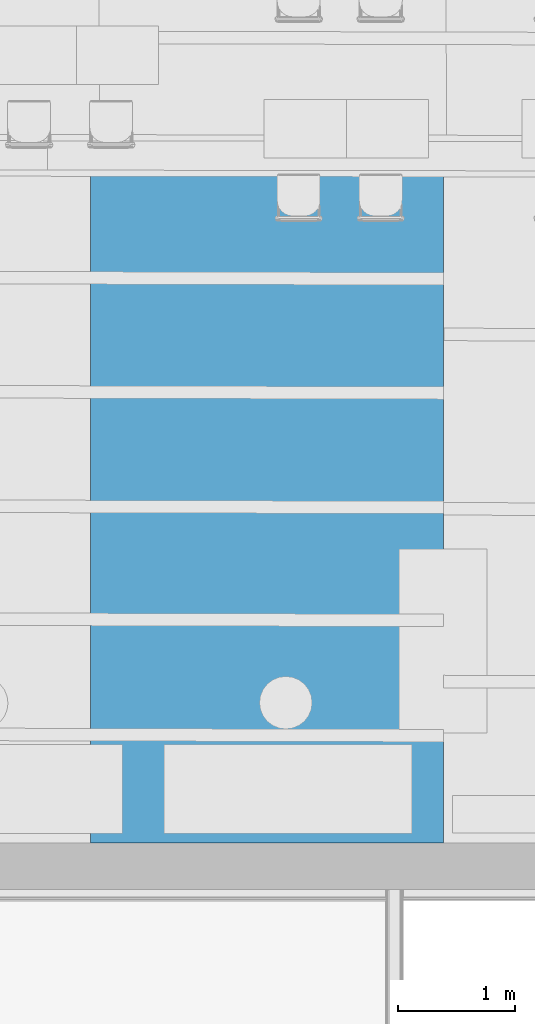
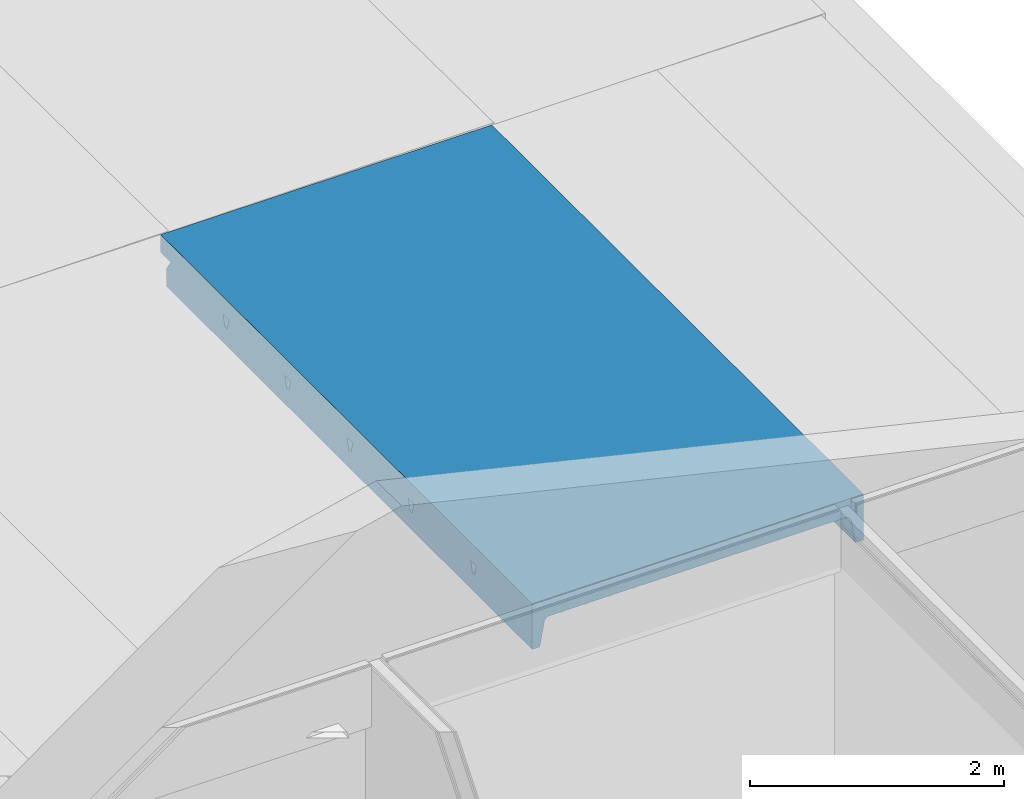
# One storey, part 20 of 153: 1 beam.
"""IFC2X3 building model written with IfcOpenShell, lengths in millimetres."""

from ifc_helpers import new_model, entity, si_unit, converted_unit, derived_unit, money_unit, direction, frame, origin_with_axes, place, context, subcontext, project, spatial, faceted_brep, material, type_object, element, save


model = new_model("IFC2X3")

# Units and contexts
model_context = context("Model", 3, precision=0.01, world=origin_with_axes(), true_north=direction((0.0, 1.0)))
body_context = subcontext(model_context, "Body", "Model", "MODEL_VIEW")
ifc_project = project(units=[si_unit("LENGTHUNIT", "METRE", prefix="MILLI"), si_unit("AREAUNIT", "SQUARE_METRE"), si_unit("VOLUMEUNIT", "CUBIC_METRE"), converted_unit("PLANEANGLEUNIT", "DEGREE", entity("IfcPlaneAngleMeasure", 0.0174532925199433), si_unit("PLANEANGLEUNIT", "RADIAN"), dimensions=[0, 0, 0, 0, 0, 0, 0]), money_unit("EUR"), converted_unit("TIMEUNIT", "Year", entity("IfcTimeMeasure", 31557600.0), si_unit("TIMEUNIT", "SECOND"), dimensions=[0, 0, 1, 0, 0, 0, 0]), si_unit("MASSUNIT", "GRAM", prefix="KILO"), si_unit("THERMODYNAMICTEMPERATUREUNIT", "DEGREE_CELSIUS"), si_unit("LUMINOUSINTENSITYUNIT", "LUMEN"), si_unit("ENERGYUNIT", "JOULE", prefix="MEGA"), derived_unit("THERMALCONDUCTANCEUNIT", [(si_unit("POWERUNIT", "WATT"), 1), (si_unit("LENGTHUNIT", "METRE"), -1), (si_unit("THERMODYNAMICTEMPERATUREUNIT", "KELVIN"), -1)]), derived_unit("SPECIFICHEATCAPACITYUNIT", [(si_unit("ENERGYUNIT", "JOULE"), 1), (si_unit("MASSUNIT", "GRAM", prefix="KILO"), -1), (si_unit("THERMODYNAMICTEMPERATUREUNIT", "KELVIN"), -1)]), derived_unit("MASSDENSITYUNIT", [(si_unit("MASSUNIT", "GRAM", prefix="KILO"), 1), (si_unit("VOLUMEUNIT", "CUBIC_METRE"), -1)])], contexts=[model_context])

# Site, building, storey
site_placement = place(None, frame((0.0, 0.0, 8650.0), z_axis=(0.0, 0.0, 1.0), x_axis=(1.0, 0.0, 0.0)))
site = spatial("IfcSite", under=ifc_project, at=site_placement, Name="43301:001:0844", CompositionType="ELEMENT")
building_placement = place(site_placement, origin_with_axes())
building = spatial("IfcBuilding", under=site, at=building_placement, Name="Kuressaare Ametikooli tuulikute mehaanikute õppekorpus", CompositionType="ELEMENT")
storey_placement = place(building_placement, frame((0.0, 0.0, 4100.0), z_axis=(0.0, 0.0, 1.0), x_axis=(1.0, 0.0, 0.0)))
storey = spatial("IfcBuildingStorey", under=building, at=storey_placement, Name="2.korrus", CompositionType="ELEMENT", Elevation=4100.0)

# Beam
ifc_material = material(Name="GENEERILINE - KONSTRUKTRIOON")
beam_type = type_object("IfcBeamType", Name="Precast Double Tee 4 3012 x 440", PredefinedType="NOTDEFINED")
beam_placement = place(storey_placement, frame((98771.69498040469, 32034.33665916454, 2975.0), z_axis=(0.0, 0.0, 1.0), x_axis=(-1.0, 0.0, 0.0)))
element("IfcBeam", 1, at=beam_placement, inside=storey, type_object=beam_type, material=ifc_material, context=body_context, shape_type="Brep", body=[
    faceted_brep([(1505.817226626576, 95.37550191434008, -440.0001340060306), (1505.817226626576, 5851.267735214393, -440.0001340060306), (1505.817226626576, 5851.267735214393, 0.0), (1505.817226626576, 0.0, 0.0), (1505.817226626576, 0.0, -169.8235593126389), (1505.817226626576, 163.6031326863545, -169.8235593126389), (1505.817226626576, 152.6405697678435, -181.3564172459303), (1505.817226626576, 120.9680493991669, -222.371868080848), (1505.817226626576, 95.37602450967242, -267.4325278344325), (1505.817226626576, 4981.841218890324, -169.8663369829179), (1505.817226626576, 4973.642342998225, -175.4406717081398), (1505.817226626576, 4969.067713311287, -184.2365347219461), (1505.817226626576, 4948.327681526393, -271.8138152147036), (1505.817226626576, 4908.327538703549, -271.8138152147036), (1505.817226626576, 4887.586545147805, -184.2363394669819), (1505.817226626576, 4883.011895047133, -175.4405967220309), (1505.817226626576, 4874.813085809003, -169.8663369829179), (1505.817226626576, 3990.444499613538, -175.4406717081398), (1505.817226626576, 3985.869869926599, -184.2365347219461), (1505.817226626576, 3965.129838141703, -271.8138152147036), (1505.817226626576, 3925.129695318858, -271.8138152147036), (1505.817226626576, 3904.388701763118, -184.2363394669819), (1505.817226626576, 3899.814051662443, -175.4405967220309), (1505.817226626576, 3891.615242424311, -169.8663369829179), (1505.817226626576, 3998.643375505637, -169.8663369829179), (1505.817226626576, 3022.135664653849, -184.2365347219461), (1505.817226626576, 3001.395632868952, -271.8138152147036), (1505.817226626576, 2961.395490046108, -271.8138152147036), (1505.817226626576, 2940.654496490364, -184.2363394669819), (1505.817226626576, 2936.079846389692, -175.4405967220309), (1505.817226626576, 2927.881037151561, -169.8663369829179), (1505.817226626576, 3034.909170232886, -169.8663369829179), (1505.817226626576, 3026.710294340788, -175.4406717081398), (1505.817226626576, 2024.495886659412, -271.8138152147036), (1505.817226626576, 1984.495743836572, -271.8138152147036), (1505.817226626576, 1963.754750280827, -184.2363394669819), (1505.817226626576, 1959.180100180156, -175.4405967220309), (1505.817226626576, 1950.981290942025, -169.8663369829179), (1505.817226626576, 2058.009424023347, -169.8663369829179), (1505.817226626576, 2049.810548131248, -175.4406717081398), (1505.817226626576, 2045.235918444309, -184.2365347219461), (1505.817226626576, 1010.734254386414, -271.8138152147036), (1505.817226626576, 989.9932608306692, -184.2363394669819), (1505.817226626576, 985.4186107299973, -175.4405967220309), (1505.817226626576, 977.2198014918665, -169.8663369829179), (1505.817226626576, 1084.247934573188, -169.8663369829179), (1505.817226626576, 1076.049058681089, -175.4406717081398), (1505.817226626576, 1071.474428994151, -184.2365347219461), (1505.817226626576, 1050.734397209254, -271.8138152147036), (1435.817226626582, 95.49163130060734, -440.0001340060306), (1435.817226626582, 5851.267735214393, -440.0001340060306), (1376.104194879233, 5851.267735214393, -180.3380699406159), (1360.269640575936, 5851.267735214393, -172.4372542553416), (1342.636896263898, 5851.267735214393, -170.9398142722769), (-1340.070370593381, 5851.267735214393, -169.8234995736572), (-1360.128065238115, 5851.267735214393, -173.505793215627), (-1377.569867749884, 5851.267735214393, -184.0724353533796), (-1390.121046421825, 5851.267735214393, -200.145341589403), (-1396.144696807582, 5851.267735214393, -219.628309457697), (-1430.817223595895, 5851.267735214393, -440.0001340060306), (-1505.817226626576, 5851.267735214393, -440.0001340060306), (-1505.817226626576, 5851.267735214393, 0.0), (1394.00150495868, 5851.267735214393, -210.1386333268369), (1387.903755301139, 5851.267735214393, -193.5261847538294), (-1505.817226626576, 0.0, 0.0), (-1505.817226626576, 0.0, -169.8235593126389), (-1340.070370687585, 168.3244352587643, -169.8235593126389), (-1505.817226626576, 168.5994078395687, -169.8235593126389), (1342.636896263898, 162.8127908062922, -170.9398142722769), (1360.269640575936, 161.3601460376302, -172.4372542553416), (1376.104194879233, 153.8237530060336, -180.3380699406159), (1377.015322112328, 152.8542509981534, -181.3564172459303), (1387.903755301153, 143.4385772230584, -193.5261847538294), (1394.00150495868, 130.6001706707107, -210.1386333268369), (1396.226938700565, 121.149858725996, -222.371868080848), (1404.424240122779, 95.54423458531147, -267.4325278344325), (1342.636896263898, 4980.698386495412, -170.9398142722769), (1360.269640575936, 4978.448793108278, -172.4372542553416), (1366.288990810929, 4974.015203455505, -175.4406717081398), (-1237.124284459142, 4989.171164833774, -169.8663369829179), (1376.104194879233, 4971.441892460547, -180.3380699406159), (1379.592196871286, 4969.405023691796, -184.2365347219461), (1387.903755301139, 4967.18283994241, -193.5261847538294), (1394.00150495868, 4963.232388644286, -210.1386333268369), (1405.221270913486, 4948.59650348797, -271.8138152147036), (1405.221270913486, 4908.596360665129, -271.8138152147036), (1379.592022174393, 4887.923855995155, -184.2363394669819), (1394.00150495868, 4894.019795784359, -210.1386333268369), (1387.903755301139, 4890.101760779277, -193.5261847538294), (1376.104194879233, 4885.905693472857, -180.3380699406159), (1366.288840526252, 4883.384755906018, -175.4405967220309), (-1237.124284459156, 4882.143031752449, -169.8663369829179), (1360.269640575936, 4878.983423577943, -172.4372542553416), (1342.636896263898, 4876.828058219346, -170.9398142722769), (1376.104194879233, 3988.244049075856, -180.3380699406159), (1379.592196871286, 3986.207180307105, -184.2365347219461), (1366.288990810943, 3990.817360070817, -175.4406717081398), (1394.00150495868, 3980.034545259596, -210.1386333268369), (1405.221270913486, 3965.398660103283, -271.8138152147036), (1387.903755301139, 3983.984996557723, -193.5261847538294), (1405.221270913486, 3925.398517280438, -271.8138152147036), (1394.00150495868, 3910.821952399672, -210.1386333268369), (1387.903755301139, 3906.90391739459, -193.5261847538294), (1379.592022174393, 3904.726012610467, -184.2363394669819), (1366.288840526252, 3900.186912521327, -175.4405967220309), (1376.104194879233, 3902.70785008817, -180.3380699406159), (1360.269640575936, 3895.785580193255, -172.4372542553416), (1342.636896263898, 3893.630214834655, -170.9398142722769), (-1237.124284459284, 3898.945188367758, -169.8663369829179), (-1237.124284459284, 4005.973321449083, -169.8663369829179), (1360.269640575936, 3995.250949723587, -172.4372542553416), (1342.636896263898, 3997.500543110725, -170.9398142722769), (1405.221270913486, 3001.664454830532, -271.8138152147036), (1379.592196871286, 3022.472975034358, -184.2365347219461), (1387.903755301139, 3020.250791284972, -193.5261847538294), (1394.00150495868, 3016.300339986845, -210.1386333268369), (1405.221270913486, 2961.664312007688, -271.8138152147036), (1394.00150495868, 2947.087747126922, -210.1386333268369), (1387.903755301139, 2943.16971212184, -193.5261847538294), (1379.592022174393, 2940.991807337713, -184.2363394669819), (1376.104194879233, 2938.973644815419, -180.3380699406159), (1366.288840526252, 2936.452707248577, -175.4405967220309), (1360.269640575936, 2932.051374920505, -172.4372542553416), (1342.636896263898, 2929.896009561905, -170.9398142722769), (-1237.124284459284, 2935.210983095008, -169.8663369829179), (-1237.124284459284, 3042.239116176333, -169.8663369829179), (1366.288990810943, 3027.083154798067, -175.4406717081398), (1342.636896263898, 3033.766337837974, -170.9398142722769), (1360.269640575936, 3031.516744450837, -172.4372542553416), (1376.104194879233, 3024.509843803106, -180.3380699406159), (1405.221270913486, 2024.764708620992, -271.8138152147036), (1405.221270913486, 1984.764565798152, -271.8138152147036), (1394.00150495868, 1970.188000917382, -210.1386333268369), (1387.903755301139, 1966.2699659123, -193.5261847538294), (1379.592022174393, 1964.092061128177, -184.2363394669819), (1376.104194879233, 1962.07389860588, -180.3380699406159), (1366.288840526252, 1959.552961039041, -175.4405967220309), (1360.269640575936, 1955.151628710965, -172.4372542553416), (1342.636896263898, 1952.996263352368, -170.9398142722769), (-1237.124284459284, 1958.311236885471, -169.8663369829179), (-1237.124284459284, 2065.339369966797, -169.8663369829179), (1342.636896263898, 2056.866591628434, -170.9398142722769), (1360.269640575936, 2054.6169982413, -172.4372542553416), (1366.288990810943, 2050.183408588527, -175.4406717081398), (1376.104194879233, 2047.610097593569, -180.3380699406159), (1379.592196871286, 2045.573228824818, -184.2365347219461), (1387.903755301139, 2043.351045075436, -193.5261847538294), (1394.00150495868, 2039.400593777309, -210.1386333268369), (1394.00150495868, 996.4265114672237, -210.1386333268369), (1387.903755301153, 992.5084764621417, -193.5261847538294), (1379.592022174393, 990.3305716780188, -184.2363394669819), (1405.221270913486, 1011.003076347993, -271.8138152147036), (1376.104194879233, 988.3124091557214, -180.3380699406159), (1366.288840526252, 985.7914715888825, -175.4405967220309), (1360.269640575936, 981.3901392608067, -172.4372542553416), (1342.636896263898, 979.2347739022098, -170.9398142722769), (-1237.124284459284, 984.5497474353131, -169.8663369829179), (-1237.124284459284, 1091.577880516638, -169.8663369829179), (1342.636896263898, 1083.105102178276, -170.9398142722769), (1360.269640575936, 1080.855508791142, -172.4372542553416), (1366.288990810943, 1076.421919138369, -175.4406717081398), (1376.104194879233, 1073.848608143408, -180.3380699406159), (1379.592196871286, 1071.81173937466, -184.2365347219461), (1387.903755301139, 1069.589555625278, -193.5261847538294), (1394.00150495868, 1065.639104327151, -210.1386333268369), (1405.221270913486, 1051.003219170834, -271.8138152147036), (-1340.303708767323, 984.8254731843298, -169.8663369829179), (-1340.303708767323, 1091.853606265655, -169.8663369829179), (-1360.128065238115, 1086.553576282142, -173.505793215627), (-1360.128065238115, 1963.992974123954, -173.505793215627), (-1340.303708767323, 1958.586962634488, -169.8663369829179), (-1340.303708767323, 2065.615095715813, -169.8663369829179), (-1360.128065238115, 2060.315065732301, -173.505793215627), (-1360.128065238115, 2940.892720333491, -173.505793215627), (-1340.303708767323, 2935.486708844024, -169.8663369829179), (-1340.303708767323, 3042.51484192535, -169.8663369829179), (-1360.128065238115, 3037.214811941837, -173.505793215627), (-1360.128065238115, 3904.626925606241, -173.505793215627), (-1340.303708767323, 3899.220914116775, -169.8663369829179), (-1340.303708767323, 4006.2490471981, -169.8663369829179), (-1360.128065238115, 4000.949017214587, -173.505793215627), (-1360.128065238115, 4887.824768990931, -173.505793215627), (-1340.303708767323, 4882.418757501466, -169.8663369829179), (-1340.303708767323, 4989.446890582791, -169.8663369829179), (-1360.128065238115, 4984.146860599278, -173.505793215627), (-1360.128065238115, 164.8575618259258, -173.505793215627), (-1360.128065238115, 990.2314846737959, -173.505793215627), (-1363.321867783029, 4981.309525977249, -175.4406717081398), (-1377.569867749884, 4976.858317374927, -184.0724353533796), (-1377.698011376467, 4976.773313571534, -184.2365347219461), (-1390.121046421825, 4973.038991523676, -200.145341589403), (-1396.144696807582, 4968.441136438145, -219.628309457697), (-1396.144696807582, 1979.891533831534, -219.628309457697), (-1396.144696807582, 1070.847852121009, -219.628309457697), (-1404.355380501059, 1058.511233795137, -271.8138152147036), (-1404.355380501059, 1018.511090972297, -271.8138152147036), (-1396.144696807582, 1006.130044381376, -219.628309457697), (-1396.144696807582, 127.9009807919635, -219.628309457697), (-1396.576358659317, 125.7830949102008, -222.371868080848), (-1403.666044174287, 100.2028317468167, -267.4325278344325), (-1430.817223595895, 100.2473527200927, -440.0001340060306), (-1404.355380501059, 4956.104518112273, -271.8138152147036), (-1404.355380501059, 4916.104375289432, -271.8138152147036), (-1396.144696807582, 4903.723328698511, -219.628309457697), (-1396.144696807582, 3985.243293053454, -219.628309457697), (-1404.355380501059, 3972.906674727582, -271.8138152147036), (-1404.355380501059, 3932.906531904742, -271.8138152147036), (-1396.144696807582, 3920.525485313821, -219.628309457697), (-1396.144696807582, 3021.509087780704, -219.628309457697), (-1404.355380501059, 3009.172469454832, -271.8138152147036), (-1404.355380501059, 2969.172326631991, -271.8138152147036), (-1396.144696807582, 2956.79128004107, -219.628309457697), (-1396.144696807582, 2044.609341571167, -219.628309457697), (-1404.355380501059, 2032.272723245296, -271.8138152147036), (-1404.355380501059, 1992.272580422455, -271.8138152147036), (-1505.817226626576, 100.3717770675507, -440.0001340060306), (-1505.817226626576, 100.3722996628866, -267.4325278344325), (-1505.817226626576, 125.9643245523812, -222.371868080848), (-1505.817226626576, 157.6368449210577, -181.3564172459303), (-1505.817226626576, 3041.88333151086, -184.2365347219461), (-1505.817226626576, 3046.457961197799, -175.4406717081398), (-1505.817226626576, 3054.656837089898, -169.8663369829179), (-1505.817226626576, 3001.142770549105, -169.8663369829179), (-1505.817226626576, 3001.142770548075, -271.8138152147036), (-1505.817226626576, 3021.143299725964, -271.8138152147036), (-1505.817226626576, 4519.858876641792, -175.4406717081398), (-1505.817226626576, 4528.057752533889, -169.8663369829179), (-1505.817226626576, 4474.543685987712, -169.8663369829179), (-1505.817226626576, 4474.543685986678, -271.8138152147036), (-1505.817226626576, 4494.544215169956, -271.8138152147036), (-1505.817226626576, 4515.284246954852, -184.2365347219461), (-1505.817226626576, 4936.375124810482, -169.8663369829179), (-1505.817226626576, 4882.861058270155, -169.8663369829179), (-1505.817226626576, 4891.059867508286, -175.4405967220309), (-1505.817226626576, 4895.634517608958, -184.2363394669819), (-1505.817226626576, 4916.375511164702, -271.8138152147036), (-1505.817226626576, 4936.375124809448, -271.8138152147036), (-1505.817226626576, 3899.663214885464, -169.8663369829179), (-1505.817226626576, 3907.862024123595, -175.4405967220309), (-1505.817226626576, 3912.436674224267, -184.2363394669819), (-1505.817226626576, 3933.177667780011, -271.8138152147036), (-1505.817226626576, 3953.177281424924, -271.8138152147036), (-1505.817226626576, 3953.177281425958, -169.8663369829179), (-1505.817226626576, 2944.127818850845, -175.4405967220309), (-1505.817226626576, 2948.702468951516, -184.2363394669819), (-1505.817226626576, 2969.443462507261, -271.8138152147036), (-1505.817226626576, 2989.443076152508, -271.8138152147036), (-1505.817226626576, 2989.443076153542, -169.8663369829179), (-1505.817226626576, 2935.929009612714, -169.8663369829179), (-1505.817226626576, 1971.80272274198, -184.2363394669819), (-1505.817226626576, 1992.543716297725, -271.8138152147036), (-1505.817226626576, 2012.543329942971, -271.8138152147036), (-1505.817226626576, 2012.543329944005, -169.8663369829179), (-1505.817226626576, 1959.029263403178, -169.8663369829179), (-1505.817226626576, 1967.228072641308, -175.4405967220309), (-1505.817226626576, 1018.782226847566, -271.8138152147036), (-1505.817226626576, 1038.781840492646, -271.8138152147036), (-1505.817226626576, 1038.78184049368, -169.8663369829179), (-1505.817226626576, 985.2677739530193, -169.8663369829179), (-1505.817226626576, 993.4665831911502, -175.4405967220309), (-1505.817226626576, 998.041233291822, -184.2363394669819), (-1373.086678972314, 157.4166461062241, -181.3564172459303), (-1505.674222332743, 1092.295524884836, -169.8663369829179), (-1505.696131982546, 1084.096707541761, -175.4406717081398), (-1363.321867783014, 1083.716241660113, -175.4406717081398), (-1377.569867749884, 1079.265033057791, -184.0724353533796), (-1377.569867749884, 1971.374761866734, -184.0724353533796), (-1363.321744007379, 1966.847282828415, -175.4405967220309), (-1505.674222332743, 2066.057014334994, -169.8663369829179), (-1505.696131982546, 2057.858196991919, -175.4406717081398), (-1363.321867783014, 2057.477731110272, -175.4406717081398), (-1377.569867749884, 2053.026522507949, -184.0724353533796), (-1377.569867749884, 2948.274508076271, -184.0724353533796), (-1363.321744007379, 2943.747029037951, -175.4405967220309), (-1505.674222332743, 3042.956760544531, -169.8663369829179), (-1505.696131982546, 3034.757943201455, -175.4406717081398), (-1363.321867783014, 3034.377477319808, -175.4406717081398), (-1363.321744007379, 3907.481234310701, -175.4405967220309), (-1377.569867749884, 3029.926268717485, -184.0724353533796), (-1377.569867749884, 3912.008713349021, -184.0724353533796), (-1505.674222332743, 4006.690965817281, -169.8663369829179), (-1505.696131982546, 3998.492148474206, -175.4406717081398), (-1363.321867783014, 3998.111682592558, -175.4406717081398), (-1377.569867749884, 4895.206556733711, -184.0724353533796), (-1363.321744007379, 4890.679077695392, -175.4405967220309), (-1377.569867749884, 3993.660473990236, -184.0724353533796), (-1505.674222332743, 4989.888809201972, -169.8663369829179), (-1505.696131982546, 4981.689991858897, -175.4406717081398), (-1377.569867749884, 997.6132724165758, -184.0724353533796), (-1363.321744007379, 993.0857933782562, -175.4405967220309), (-1377.569867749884, 155.3267487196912, -184.0724353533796), (-1505.708356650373, 4977.115394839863, -184.2365347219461), (-1505.763779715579, 4956.375511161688, -271.8138152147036), (-1390.121046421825, 1975.261281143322, -200.145341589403), (-1390.121046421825, 1075.445707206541, -200.145341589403), (-1505.763779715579, 1058.782226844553, -271.8138152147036), (-1377.698011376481, 1079.180029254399, -184.2365347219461), (-1505.708356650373, 1079.522110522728, -184.2365347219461), (-1377.697858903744, 997.6988606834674, -184.2363394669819), (-1390.121046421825, 1001.499791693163, -200.145341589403), (-1390.121046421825, 142.9359202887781, -200.145341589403), (-1377.697858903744, 4895.292145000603, -184.2363394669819), (-1390.121046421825, 4899.093076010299, -200.145341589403), (-1390.121046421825, 3989.841148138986, -200.145341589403), (-1377.698011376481, 3993.575470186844, -184.2365347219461), (-1505.708356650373, 3993.917551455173, -184.2365347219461), (-1505.763779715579, 3973.177667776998, -271.8138152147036), (-1377.697858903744, 3912.094301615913, -184.2363394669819), (-1390.121046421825, 3915.895232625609, -200.145341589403), (-1390.121046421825, 3026.106942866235, -200.145341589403), (-1377.698011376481, 3029.841264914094, -184.2365347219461), (-1505.708356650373, 3030.183346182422, -184.2365347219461), (-1505.763779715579, 3009.443462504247, -271.8138152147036), (-1390.121046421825, 2952.161027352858, -200.145341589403), (-1377.697858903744, 2948.360096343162, -184.2363394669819), (-1390.121046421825, 2049.207196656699, -200.145341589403), (-1505.708356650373, 2053.283599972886, -184.2365347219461), (-1505.763779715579, 2032.543716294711, -271.8138152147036), (-1377.698011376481, 2052.941518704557, -184.2365347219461), (-1377.697858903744, 1971.460350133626, -184.2363394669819), (-1505.708356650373, 3041.883040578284, -184.2365347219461), (-1505.696131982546, 3046.457637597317, -175.4406717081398), (-1505.674222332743, 3054.656454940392, -169.8663369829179), (-1505.763779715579, 3021.143156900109, -271.8138152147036), (-1505.696131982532, 4519.85855304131, -175.4406717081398), (-1505.674222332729, 4528.057370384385, -169.8663369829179), (-1505.708356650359, 4515.283956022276, -184.2365347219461), (-1505.763779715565, 4494.544072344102, -271.8138152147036)], [[[0, 1, 2, 3, 4, 5, 6, 7, 8], [9, 10, 11, 12, 13, 14, 15, 16], [17, 18, 19, 20, 21, 22, 23, 24], [25, 26, 27, 28, 29, 30, 31, 32], [33, 34, 35, 36, 37, 38, 39, 40], [41, 42, 43, 44, 45, 46, 47, 48]], [[0, 49, 50, 1]], [[51, 52, 53, 54, 55, 56, 57, 58, 59, 60, 61, 2, 1, 50, 62, 63]], [[3, 2, 61, 64]], [[65, 4, 3, 64]], [[66, 5, 4, 65, 67]], [[5, 66, 68, 69, 70, 71, 6]], [[7, 6, 71, 72, 73, 74]], [[74, 75, 8, 7]], [[75, 49, 0, 8]], [[76, 77, 78, 10, 9, 79]], [[78, 80, 81, 11, 10]], [[82, 83, 84, 12, 11, 81]], [[12, 84, 85, 13]], [[86, 14, 13, 85, 87, 88]], [[89, 90, 15, 14, 86]], [[91, 16, 15, 90, 92, 93]], [[16, 91, 79, 9]], [[94, 95, 18, 17, 96]], [[97, 98, 19, 18, 95, 99]], [[98, 100, 20, 19]], [[21, 20, 100, 101, 102, 103]], [[104, 22, 21, 103, 105]], [[23, 22, 104, 106, 107, 108]], [[108, 109, 24, 23]], [[110, 96, 17, 24, 109, 111]], [[112, 26, 25, 113, 114, 115]], [[116, 27, 26, 112]], [[27, 116, 117, 118, 119, 28]], [[29, 28, 119, 120, 121]], [[29, 121, 122, 123, 124, 30]], [[125, 31, 30, 124]], [[126, 32, 31, 125, 127, 128]], [[113, 25, 32, 126, 129]], [[34, 33, 130, 131]], [[131, 132, 133, 134, 35, 34]], [[35, 134, 135, 136, 36]], [[136, 137, 138, 139, 37, 36]], [[38, 37, 139, 140]], [[39, 38, 140, 141, 142, 143]], [[40, 39, 143, 144, 145]], [[33, 40, 145, 146, 147, 130]], [[148, 149, 150, 42, 41, 151]], [[150, 152, 153, 43, 42]], [[154, 155, 156, 44, 43, 153]], [[44, 156, 157, 45]], [[45, 157, 158, 159, 160, 46]], [[46, 160, 161, 162, 47]], [[47, 162, 163, 164, 165, 48]], [[48, 165, 151, 41]], [[151, 165, 164, 132, 131, 130, 147, 117, 116, 112, 115, 101, 100, 98, 97, 87, 85, 84, 83, 62, 50, 49, 75, 74, 73, 148]], [[78, 77, 52, 51, 80]], [[52, 77, 76, 53]], [[138, 158, 157, 156, 155, 68, 66, 54, 53, 76, 79, 91, 93, 111, 109, 108, 107, 127, 125, 124, 123, 141, 140, 139]], [[166, 167, 168, 169, 170, 171, 172, 173, 174, 175, 176, 177, 178, 179, 180, 181, 182, 183, 184, 55, 54, 66, 185, 186]], [[187, 188, 56, 55, 184]], [[189, 190, 57, 56, 188]], [[57, 190, 191, 58]], [[192, 193, 194, 195, 196, 197, 198, 199, 200, 59, 58, 191, 201, 202, 203, 204, 205, 206, 207, 208, 209, 210, 211, 212, 213, 214]], [[200, 215, 60, 59]], [[67, 65, 64, 61, 60, 215, 216, 217, 218], [219, 220, 221, 222, 223, 224], [225, 226, 227, 228, 229, 230], [231, 232, 233, 234, 235, 236], [237, 238, 239, 240, 241, 242], [243, 244, 245, 246, 247, 248], [249, 250, 251, 252, 253, 254], [255, 256, 257, 258, 259, 260]], [[62, 83, 82, 63]], [[81, 80, 51, 63, 82]], [[261, 185, 66, 67, 218]], [[68, 155, 154, 69]], [[154, 153, 152, 70, 69]], [[152, 150, 149, 72, 71, 70]], [[72, 149, 148, 73]], [[97, 99, 88, 87]], [[89, 86, 88, 99, 95, 94]], [[92, 90, 89, 94, 96, 110]], [[110, 111, 93, 92]], [[114, 102, 101, 115]], [[103, 102, 114, 113, 129, 105]], [[104, 105, 129, 126, 128, 106]], [[127, 107, 106, 128]], [[118, 117, 147, 146]], [[118, 146, 145, 144, 120, 119]], [[120, 144, 143, 142, 122, 121]], [[123, 122, 142, 141]], [[132, 164, 163, 133]], [[163, 162, 161, 135, 134, 133]], [[161, 160, 159, 137, 136, 135]], [[137, 159, 158, 138]], [[166, 258, 257, 262, 167]], [[263, 264, 168, 167, 262]], [[168, 264, 265, 266, 267, 169]], [[169, 267, 254, 253, 170]], [[171, 170, 253, 252, 268]], [[268, 269, 270, 172, 171]], [[173, 172, 270, 271, 272, 273]], [[174, 173, 273, 243, 248]], [[274, 175, 174, 248, 247]], [[175, 274, 275, 276, 176]], [[277, 177, 176, 276, 278, 279]], [[237, 178, 177, 277, 238]], [[242, 280, 179, 178, 237]], [[180, 179, 280, 281, 282]], [[283, 284, 181, 180, 282, 285]], [[233, 232, 182, 181, 284]], [[232, 231, 286, 183, 182]], [[187, 184, 183, 286, 287]], [[288, 289, 186, 185, 261, 290]], [[289, 259, 258, 166, 186]], [[189, 188, 187, 287, 291]], [[191, 190, 189, 291, 292, 201]], [[293, 294, 193, 192]], [[295, 194, 193, 294, 296, 297]], [[295, 256, 255, 195, 194]], [[195, 255, 260, 298, 299, 196]], [[197, 196, 299, 300]], [[261, 218, 217, 198, 197, 300, 290]], [[217, 216, 199, 198]], [[216, 215, 200, 199]], [[236, 235, 202, 201, 292]], [[234, 301, 302, 203, 202, 235]], [[303, 204, 203, 302]], [[303, 304, 305, 306, 205, 204]], [[240, 206, 205, 306, 241]], [[307, 308, 207, 206, 240, 239]], [[208, 207, 308, 309]], [[310, 311, 312, 209, 208, 309]], [[210, 209, 312, 246, 245]], [[313, 211, 210, 245, 244, 314]], [[211, 313, 315, 212]], [[316, 317, 213, 212, 315, 318]], [[213, 317, 251, 250, 214]], [[192, 214, 250, 249, 319, 293]], [[219, 320, 321, 220]], [[220, 321, 322, 221]], [[322, 222, 221]], [[323, 223, 222, 322, 321, 320]], [[323, 224, 223]], [[224, 323, 320, 219]], [[324, 325, 226, 225]], [[227, 226, 325]], [[228, 227, 325, 324, 326, 327]], [[229, 228, 327]], [[327, 326, 230, 229]], [[326, 324, 225, 230]], [[234, 233, 284, 283, 301]], [[236, 292, 291, 287, 286, 231]], [[238, 277, 279, 307, 239]], [[306, 305, 281, 280, 242, 241]], [[273, 272, 314, 244, 243]], [[311, 275, 274, 247, 246, 312]], [[269, 268, 252, 251, 317, 316]], [[266, 319, 249, 254, 267]], [[262, 257, 256, 295, 297, 263]], [[298, 260, 259, 289, 288]], [[297, 296, 265, 264, 263]], [[265, 296, 294, 293, 319, 266]], [[269, 316, 318, 271, 270]], [[272, 271, 318, 315, 313, 314]], [[276, 275, 311, 310, 278]], [[307, 279, 278, 310, 309, 308]], [[285, 282, 281, 305, 304]], [[302, 301, 283, 285, 304, 303]], [[299, 298, 288, 290, 300]]]),
])

save(model, "model.ifc")
